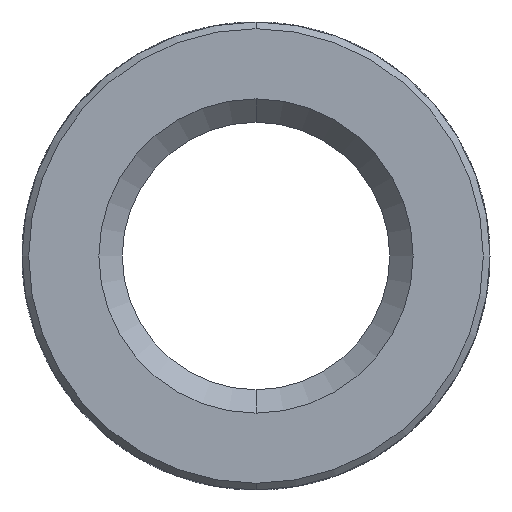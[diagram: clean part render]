
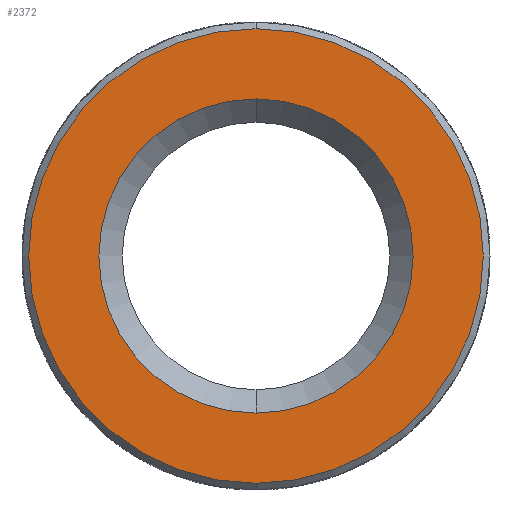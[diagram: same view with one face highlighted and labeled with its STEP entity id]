
A CAD part, front view. The second image highlights one B-rep face of the part: STEP entity #2372.
In plain terms, the highlighted planar face has unit normal (0, -1, 0).
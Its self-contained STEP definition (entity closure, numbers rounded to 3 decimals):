
#226 = CARTESIAN_POINT ( 'NONE',  ( 0., -5.7, 3.5 ) ) ;
#300 = VERTEX_POINT ( 'NONE', #1171 ) ;
#416 = DIRECTION ( 'NONE',  ( 0., 1., 0. ) ) ;
#431 = VERTEX_POINT ( 'NONE', #742 ) ;
#533 = DIRECTION ( 'NONE',  ( 0., 0., -1. ) ) ;
#568 = CARTESIAN_POINT ( 'NONE',  ( 0., -5.7, 0. ) ) ;
#594 = AXIS2_PLACEMENT_3D ( 'NONE', #635, #2999, #1552 ) ;
#614 = EDGE_CURVE ( 'NONE', #652, #431, #3375, .T. ) ;
#625 = VERTEX_POINT ( 'NONE', #3224 ) ;
#629 = ORIENTED_EDGE ( 'NONE', *, *, #3664, .T. ) ;
#635 = CARTESIAN_POINT ( 'NONE',  ( 0., -5.7, 0. ) ) ;
#652 = VERTEX_POINT ( 'NONE', #2315 ) ;
#742 = CARTESIAN_POINT ( 'NONE',  ( 0., -5.7, -3.4 ) ) ;
#746 = CIRCLE ( 'NONE', #594, 2.35 ) ;
#965 = AXIS2_PLACEMENT_3D ( 'NONE', #226, #1122, #533 ) ;
#1002 = CARTESIAN_POINT ( 'NONE',  ( 0., -5.7, 0. ) ) ;
#1098 = EDGE_CURVE ( 'NONE', #625, #300, #2750, .T. ) ;
#1122 = DIRECTION ( 'NONE',  ( 0., -1., 0. ) ) ;
#1171 = CARTESIAN_POINT ( 'NONE',  ( 0., -5.7, -2.35 ) ) ;
#1237 = DIRECTION ( 'NONE',  ( 0., -1., 0. ) ) ;
#1312 = AXIS2_PLACEMENT_3D ( 'NONE', #2478, #1237, #3644 ) ;
#1552 = DIRECTION ( 'NONE',  ( 0., 0., -1. ) ) ;
#1861 = ORIENTED_EDGE ( 'NONE', *, *, #614, .T. ) ;
#1970 = AXIS2_PLACEMENT_3D ( 'NONE', #568, #2029, #2605 ) ;
#2029 = DIRECTION ( 'NONE',  ( 0., -1., 0. ) ) ;
#2126 = FACE_OUTER_BOUND ( 'NONE', #3257, .T. ) ;
#2174 = CIRCLE ( 'NONE', #1312, 3.4 ) ;
#2315 = CARTESIAN_POINT ( 'NONE',  ( 0., -5.7, 3.4 ) ) ;
#2372 = ADVANCED_FACE ( 'NONE', ( #2126, #3647 ), #3501, .T. ) ;
#2478 = CARTESIAN_POINT ( 'NONE',  ( 0., -5.7, 0. ) ) ;
#2605 = DIRECTION ( 'NONE',  ( 0., 0., -1. ) ) ;
#2750 = CIRCLE ( 'NONE', #3495, 2.35 ) ;
#2954 = EDGE_LOOP ( 'NONE', ( #3723, #3825 ) ) ;
#2999 = DIRECTION ( 'NONE',  ( 0., 1., 0. ) ) ;
#3078 = EDGE_CURVE ( 'NONE', #300, #625, #746, .T. ) ;
#3224 = CARTESIAN_POINT ( 'NONE',  ( 0., -5.7, 2.35 ) ) ;
#3257 = EDGE_LOOP ( 'NONE', ( #1861, #629 ) ) ;
#3375 = CIRCLE ( 'NONE', #1970, 3.4 ) ;
#3384 = DIRECTION ( 'NONE',  ( 0., 0., -1. ) ) ;
#3495 = AXIS2_PLACEMENT_3D ( 'NONE', #1002, #416, #3384 ) ;
#3501 = PLANE ( 'NONE',  #965 ) ;
#3644 = DIRECTION ( 'NONE',  ( 0., 0., -1. ) ) ;
#3647 = FACE_BOUND ( 'NONE', #2954, .T. ) ;
#3664 = EDGE_CURVE ( 'NONE', #431, #652, #2174, .T. ) ;
#3723 = ORIENTED_EDGE ( 'NONE', *, *, #3078, .T. ) ;
#3825 = ORIENTED_EDGE ( 'NONE', *, *, #1098, .T. ) ;
